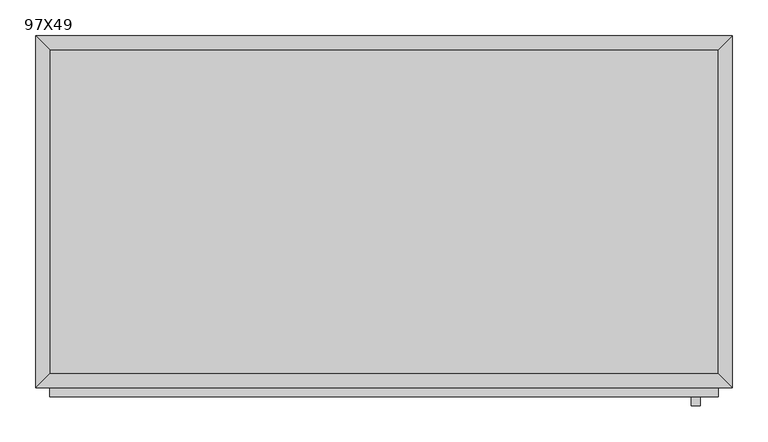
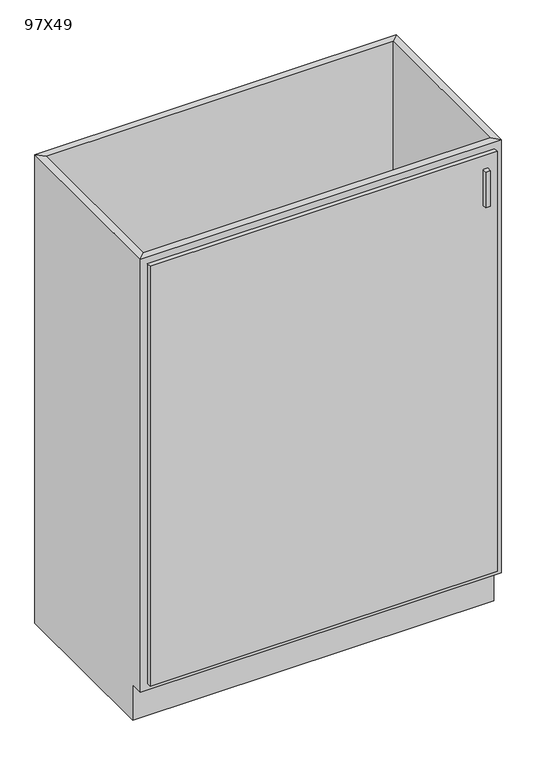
"""IFC4 building model written with IfcOpenShell, lengths in millimetres: furniture geometry, _Produtos_Arq_Bib_M_Armário base-Porta simples : 97X49."""

from ifc_helpers import new_model, si_unit, frame, origin, place, context, project, spatial, polyline, outline, extrude, faceted_brep, source, transform, mapped, element, save


def furniture_97x49_b837115c(model_context):
    return source(origin(), model_context, "Body", "SolidModel", [
        faceted_brep([(484.6877049, -470.95, 1330.0), (484.6877049, -470.95, 100.0), (-447.2122951, -470.95, 100.0), (-447.2122951, -470.95, 1330.0), (-466.2622951, -490.0, 1330.0), (503.7377049, -490.0, 1330.0), (-466.2622951, -490.0, 100.0), (503.7377049, -490.0, 100.0), (-447.2122951, -455.0, 100.0), (-447.2122951, -19.05, 100.0), (-447.2122951, -19.05, 1330.0), (-466.2622951, 0.0, 1330.0), (-466.2622951, 0.0, 0.0), (-466.2622951, -455.0, 0.0), (-466.2622951, -455.0, 100.0), (484.6877049, -19.05, 100.0), (484.6877049, -19.05, 1330.0), (503.7377049, 0.0, 1330.0), (503.7377049, 0.0, 0.0), (484.6877049, -455.0, 100.0), (503.7377049, -455.0, 100.0), (503.7377049, -455.0, 0.0)], [[[0, 1, 2, 3]], [[0, 3, 4, 5]], [[5, 4, 6, 7]], [[2, 1, 7, 6]], [[3, 2, 8, 9, 10]], [[4, 3, 10, 11]], [[6, 4, 11, 12, 13, 14]], [[2, 6, 14, 8]], [[10, 9, 15, 16]], [[11, 10, 16, 17]], [[12, 11, 17, 18]], [[1, 0, 16, 15, 19]], [[0, 5, 17, 16]], [[5, 7, 20, 21, 18, 17]], [[7, 1, 19, 20]], [[8, 19, 15, 9]], [[18, 21, 13, 12]], [[13, 21, 20, 19, 8, 14]]]),
        extrude(outline(polyline([(459.2877049, -515.4), (446.5877049, -515.4), (446.5877049, -502.7), (459.2877049, -502.7), (459.2877049, -515.4)])), frame((0.0, 0.0, 1171.25), z_axis=(0.0, 0.0, 1.0), x_axis=(1.0, 0.0, 0.0)), (0.0, 0.0, 1.0), 101.6),
        extrude(outline(polyline([(484.6877049, -502.7), (-447.2122951, -502.7), (-447.2122951, -490.0), (484.6877049, -490.0), (484.6877049, -502.7)])), frame((0.0, 0.0, 119.05), z_axis=(0.0, 0.0, 1.0), x_axis=(1.0, 0.0, 0.0)), (0.0, 0.0, 1.0), 1191.9),
        extrude(outline(polyline([(484.6877049, -19.05), (484.6877049, -470.95), (-447.2122951, -470.95), (-447.2122951, -19.05), (484.6877049, -19.05)])), frame((0.0, 0.0, 100.0), z_axis=(0.0, 0.0, 1.0), x_axis=(1.0, 0.0, 0.0)), (0.0, 0.0, 1.0), 19.05),
    ])


if __name__ == "__main__":
    model = new_model("IFC4")
    model_context = context("Model", 3, world=origin())
    ifc_project = project(units=[si_unit("LENGTHUNIT", "METRE", prefix="MILLI")], contexts=[model_context])
    site = spatial("IfcSite", under=ifc_project)
    building = spatial("IfcBuilding", under=site)
    placement = place(None, origin())
    furniture_97x49_shape = furniture_97x49_b837115c(model_context)
    element("IfcFurniture", 1, ObjectType="_Produtos_Arq_Bib_M_Armário base-Porta simples : 97X49", at=placement, inside=building, context=model_context, shape_type="MappedRepresentation", body=[
        mapped(furniture_97x49_shape, transform((0.0, 0.0, 0.0), x_axis=(1.0, 0.0, 0.0), y_axis=(0.0, 1.0, 0.0), z_axis=(0.0, 0.0, 1.0))),
    ])
    save(model, "model.ifc")
